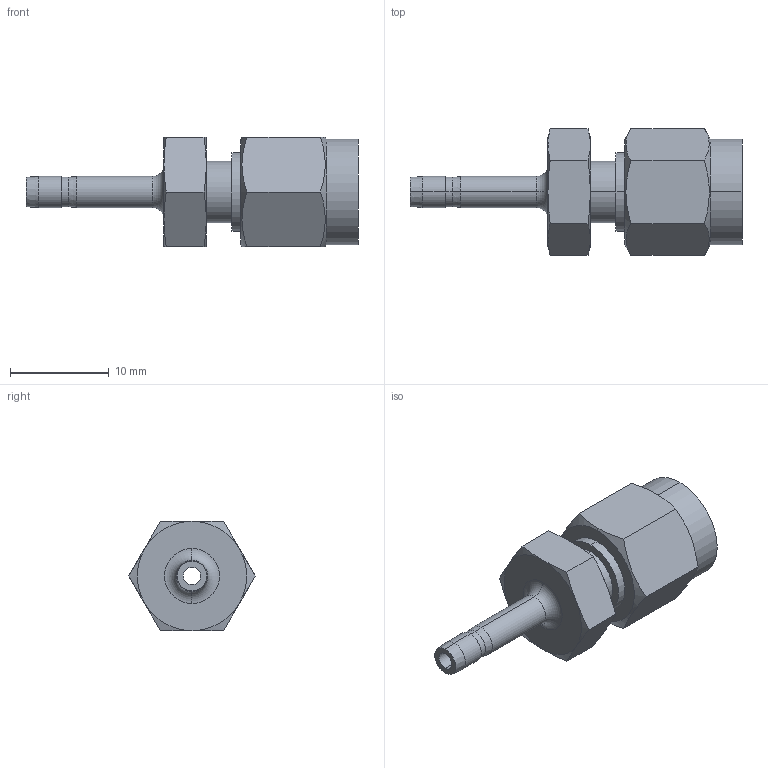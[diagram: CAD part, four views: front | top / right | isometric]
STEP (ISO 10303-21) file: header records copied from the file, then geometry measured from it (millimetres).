
FILE_DESCRIPTION (( 'STEP AP203' ), '1' );
FILE_NAME ('DRE02-02 SS.STEP', '2009-09-08T08:36:57', ( ' ' ), ( '' ), 'SwSTEP 2.0', 'SolidWorks 2008', '' );
FILE_SCHEMA (( 'CONFIG_CONTROL_DESIGN' ));
Length unit declared in the file: millimetre
Products named in the file (1): DRE02-02 SS
Bounding box: 33.7 x 12.83 x 11.11 mm (x, y, z)
Volume: 1746.8 mm3; surface area: 1404.7 mm2
Topology: 1 solids, 1 shells, 63 faces, 138 edges, 82 vertices
Faces by surface type: cone 24, plane 19, cylinder 18, torus 2
Entity records: 1901 total; most frequent: CARTESIAN_POINT 476, DIRECTION 282, ORIENTED_EDGE 276, EDGE_CURVE 138, AXIS2_PLACEMENT_3D 120, VERTEX_POINT 82, EDGE_LOOP 70, ADVANCED_FACE 63
